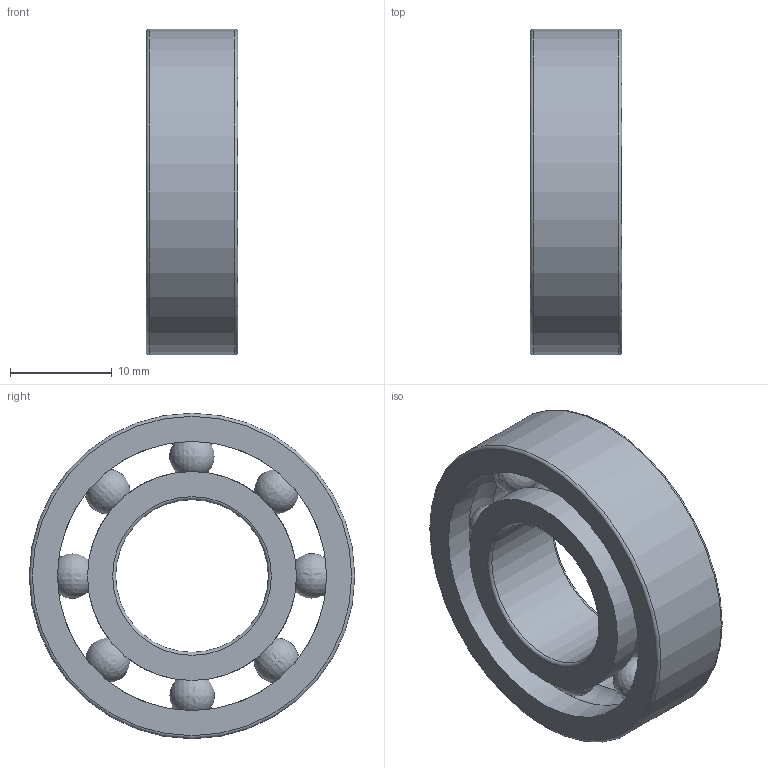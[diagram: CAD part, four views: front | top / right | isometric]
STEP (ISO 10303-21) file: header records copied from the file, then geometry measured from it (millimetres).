
FILE_DESCRIPTION(/* description */ ('깊은 그루브 볼 베어링'),/* implementation_level */ '2;1');
FILE_NAME(/* name */ '',/* time_stamp */ '2025-10-01T16:41:58+09:00',/* author */ ('jhkim'),/* organization */ (''),/* preprocessor_version */ 'ST-DEVELOPER v20.1',/* originating_system */ 'Autodesk Inventor 2026',/* authorisation */ '');
FILE_SCHEMA (('AUTOMOTIVE_DESIGN { 1 0 10303 214 3 1 1 }'));
Length unit declared in the file: millimetre
Products named in the file (1): 깊은 홈 볼 베어링 
6002
Bounding box: 9 x 32 x 32 mm (x, y, z)
Volume: 3792.9 mm3; surface area: 3990.8 mm2
Topology: 10 solids, 10 shells, 38 faces, 98 edges, 64 vertices
Faces by surface type: torus 20, sphere 8, cylinder 6, plane 4
Full cylindrical faces by diameter (mm): 15 x1, 20.542 x2, 26.458 x2, 32 x1
Entity records: 1392 total; most frequent: DIRECTION 268, CARTESIAN_POINT 233, ORIENTED_EDGE 196, AXIS2_PLACEMENT_3D 131, EDGE_CURVE 98, VERTEX_POINT 96, CIRCLE 92, EDGE_LOOP 58
